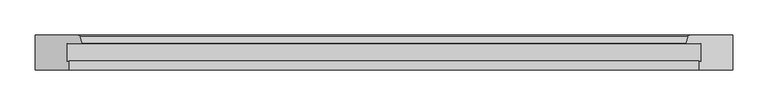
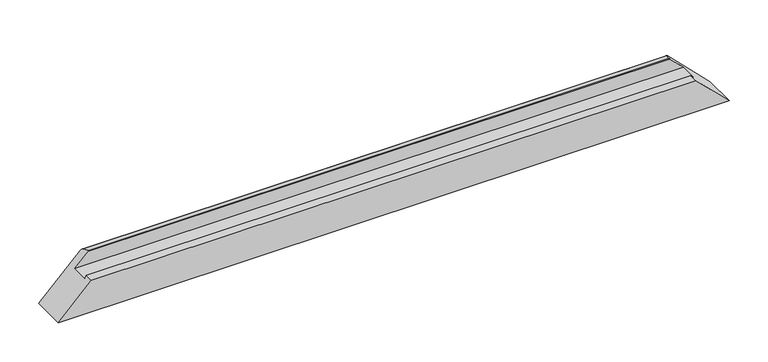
"""IFC4 building model written with IfcOpenShell, lengths in millimetres: proxy geometry, Weiku - Montante - Caixilho 02.2.01.005 : Weiku - Montante - Caixilho 02.2.01.005."""

import ifcopenshell
import ifcopenshell.guid

model = None  # the IFC model being written
_history = None  # IfcOwnerHistory: only IFC2X3 demands one
_inside = {}  # id of a spatial element -> (the spatial element, [elements in it])
_under = {}  # id of a project, library or spatial element -> (it, [spatial elements below it])
_declared = {}  # id of a project -> (the project, [libraries it declares])
_typed = {}  # id of a type object -> (the type object, [elements of that type])
_made_of = {}  # id of a material, layer set ... -> (it, [elements and type objects made of it])


def new_model(schema):
    """Start an empty IFC model of exactly this schema.

    Asked for "IFC4X3", IfcOpenShell would pick the latest addendum, in which some entities
    have other attributes; the version numbers below select the first issue.
    IFC2X3 requires an IfcOwnerHistory on every rooted entity: one is made here for all.
    """
    global model, _history
    if schema == "IFC4X3":
        model = ifcopenshell.file(schema_version=(4, 3, 0, 0))
    else:
        model = ifcopenshell.file(schema=schema)
    _inside.clear()
    _under.clear()
    _declared.clear()
    _typed.clear()
    _made_of.clear()
    _history = None
    if model.schema == "IFC2X3":
        org = make("IfcOrganization", Name="unknown")
        user = make(
            "IfcPersonAndOrganization",
            ThePerson=make("IfcPerson", FamilyName="unknown"),
            TheOrganization=org,
        )
        app = make(
            "IfcApplication",
            ApplicationDeveloper=org,
            Version="unknown",
            ApplicationFullName="unknown",
            ApplicationIdentifier="unknown",
        )
        _history = make(
            "IfcOwnerHistory",
            OwningUser=user,
            OwningApplication=app,
            ChangeAction="ADDED",
            CreationDate=0,
        )
    return model


def make(cls, **values):
    """One entity of the class cls with the attributes given. An attribute that is None is left unset."""
    return model.create_entity(
        cls, **{name: value for name, value in values.items() if value is not None}
    )


def rooted(cls, **values):
    """An entity with a GlobalId (a new one), such as an element, a storey or a relation."""
    return make(cls, GlobalId=ifcopenshell.guid.new(), OwnerHistory=_history, **values)


def si_unit(unit_type, name, prefix=None):
    """IfcSIUnit, for example si_unit("LENGTHUNIT", "METRE", prefix="MILLI")."""
    return make("IfcSIUnit", UnitType=unit_type, Prefix=prefix, Name=name)


def assignment(units):
    """IfcUnitAssignment: the units of a project."""
    return None if units is None else make("IfcUnitAssignment", Units=units)


def point(xyz):
    """IfcCartesianPoint."""
    return None if xyz is None else make("IfcCartesianPoint", Coordinates=xyz)


def direction(xyz):
    """IfcDirection."""
    return None if xyz is None else make("IfcDirection", DirectionRatios=xyz)


def frame(location, z_axis=None, x_axis=None):
    """IfcAxis2Placement3D, a coordinate frame: its origin and axes. An axis left out is left unset."""
    return make(
        "IfcAxis2Placement3D",
        Location=point(location),
        Axis=direction(z_axis),
        RefDirection=direction(x_axis),
    )


def origin():
    """The frame at (0, 0, 0) with its axes left unset."""
    return frame((0.0, 0.0, 0.0))


def place(relative_to, where):
    """IfcLocalPlacement: puts the frame where relative to a parent placement (None: the world)."""
    return make(
        "IfcLocalPlacement", PlacementRelTo=relative_to, RelativePlacement=where
    )


def context(
    kind, dimensions, precision=None, world=None, true_north=None, identifier=None
):
    """IfcGeometricRepresentationContext, for example the 3D "Model" context."""
    return make(
        "IfcGeometricRepresentationContext",
        ContextIdentifier=identifier,
        ContextType=kind,
        CoordinateSpaceDimension=dimensions,
        Precision=precision,
        WorldCoordinateSystem=world,
        TrueNorth=true_north,
    )


def project(units=None, contexts=None):
    """IfcProject with its units and contexts."""
    return rooted(
        "IfcProject",
        Name="project",
        RepresentationContexts=contexts,
        UnitsInContext=assignment(units),
    )


def spatial(cls, under=None, at=None, **own):
    """A site, building, storey or space (cls), placed at a placement, below another one or the project."""
    s = rooted(cls, ObjectPlacement=at, **own)
    if under is not None:
        _under.setdefault(under.id(), (under, []))[1].append(s)
    return s


def ellipse_curve(where, semi_axis1, semi_axis2):
    """IfcEllipse in the frame where."""
    return make(
        "IfcEllipse", Position=where, SemiAxis1=semi_axis1, SemiAxis2=semi_axis2
    )


def shape(context_of_items, identifier, shape_type, items):
    """IfcShapeRepresentation: the items that make up one representation, for example the "Body"."""
    return make(
        "IfcShapeRepresentation",
        ContextOfItems=context_of_items,
        RepresentationIdentifier=identifier,
        RepresentationType=shape_type,
        Items=items,
    )


def source(mapping_origin, context_of_items, identifier, shape_type, items):
    """IfcRepresentationMap: a shape defined once, which mapped items show again and again."""
    return make(
        "IfcRepresentationMap",
        MappingOrigin=mapping_origin,
        MappedRepresentation=shape(context_of_items, identifier, shape_type, items),
    )


def transform(
    local_origin,
    x_axis=None,
    y_axis=None,
    z_axis=None,
    scale=None,
    scale2=None,
    scale3=None,
    uniform=True,
):
    """IfcCartesianTransformationOperator3D, or its non-uniform kind. x_axis, y_axis, z_axis: its Axis1, 2, 3."""
    if uniform:
        return make(
            "IfcCartesianTransformationOperator3D",
            Axis1=direction(x_axis),
            Axis2=direction(y_axis),
            LocalOrigin=point(local_origin),
            Scale=scale,
            Axis3=direction(z_axis),
        )
    return make(
        "IfcCartesianTransformationOperator3DnonUniform",
        Axis1=direction(x_axis),
        Axis2=direction(y_axis),
        LocalOrigin=point(local_origin),
        Scale=scale,
        Axis3=direction(z_axis),
        Scale2=scale2,
        Scale3=scale3,
    )


def mapped(mapping_source, mapping_target):
    """IfcMappedItem: shows the shape of a source again, moved by a transform."""
    return make(
        "IfcMappedItem", MappingSource=mapping_source, MappingTarget=mapping_target
    )


def made_of(thing, what):
    """Note that an element or type object is made of a material, layer set ...; save() writes the relation."""
    if what is not None:
        _made_of.setdefault(what.id(), (what, []))[1].append(thing)
    return thing


def element(
    cls,
    number,
    at=None,
    inside=None,
    cuts=None,
    type_object=None,
    material=None,
    context=None,
    identifier="Body",
    shape_type=None,
    held_by="IfcProductDefinitionShape",
    body=None,
    shapes=None,
    **own,
):
    """One element of the class cls, such as IfcWall. Its Tag is "e" and its number.

    at: its placement. inside: the storey or other place that contains it. cuts: it is an
    opening in that element (IfcRelVoidsElement). A single representation is given by context,
    identifier, shape_type and body (its items); several are given by shapes. held_by: the class
    of the entity that holds the representations. save() writes the other relations.
    """
    e = rooted(cls, Tag="e%d" % number, ObjectPlacement=at, **own)
    if body is not None:
        shapes = [shape(context, identifier, shape_type, body)]
    if shapes is not None:
        e.Representation = make(held_by, Representations=shapes)
    if inside is not None:
        _inside.setdefault(inside.id(), (inside, []))[1].append(e)
    if cuts is not None:
        rooted(
            "IfcRelVoidsElement", RelatingBuildingElement=cuts, RelatedOpeningElement=e
        )
    if type_object is not None:
        _typed.setdefault(type_object.id(), (type_object, []))[1].append(e)
    return made_of(e, material)


def aggregate(whole, parts):
    """IfcRelAggregates: a whole, such as a stair, and the parts it consists of."""
    return rooted("IfcRelAggregates", RelatingObject=whole, RelatedObjects=parts)


def save(model, path):
    """Write the relations noted so far, then the file.

    IfcRelAggregates (storeys below a building ...), IfcRelContainedInSpatialStructure (elements
    in a storey), IfcRelDefinesByType, IfcRelAssociatesMaterial and IfcRelDeclares: one each for
    every whole, place, type object, material and project.
    """
    for whole, parts in _under.values():
        aggregate(whole, parts)
    for where, things in _inside.values():
        rooted(
            "IfcRelContainedInSpatialStructure",
            RelatedElements=things,
            RelatingStructure=where,
        )
    for kind, things in _typed.values():
        rooted("IfcRelDefinesByType", RelatedObjects=things, RelatingType=kind)
    for what, things in _made_of.values():
        rooted("IfcRelAssociatesMaterial", RelatedObjects=things, RelatingMaterial=what)
    for by, libraries in _declared.values():
        rooted("IfcRelDeclares", RelatingContext=by, RelatedDefinitions=libraries)
    model.write(path)


def plane_surface(at):
    """IfcPlane: the flat surface through the origin of the frame at, square to its z axis."""
    return make("IfcPlane", Position=at)


def cylinder_surface(at, radius):
    """IfcCylindricalSurface: all points at the distance radius from the z axis of the frame at."""
    return make("IfcCylindricalSurface", Position=at, Radius=radius)


def advanced_brep(points, edges, surfaces, faces):
    """IfcAdvancedBrep: a solid bounded by faces that lie on surfaces and meet in shared edges.

    An edge is (start, end): straight between two places in points (the first is 0);
    or (start, end, curve); or (start, end, curve, False) where it runs against its curve.
    A face is (place in surfaces, loops), or (place, loops, False) where it looks against
    its surface's normal. A loop lists edges by number (the first is 1), with a minus sign
    where the edge is run from its end to its start. The first loop is the outer one.
    """
    corners = [point(p) for p in points]
    vertices = [make("IfcVertexPoint", VertexGeometry=c) for c in corners]
    made = []
    for start, end, *more in edges:
        made.append(
            make(
                "IfcEdgeCurve",
                EdgeStart=vertices[start],
                EdgeEnd=vertices[end],
                EdgeGeometry=more[0] if more else make("IfcPolyline", Points=[corners[start], corners[end]]),
                SameSense=more[1] if len(more) > 1 else True,
            )
        )
    hull = []
    for where, loops, *sense in faces:
        bounds = []
        for j, loop in enumerate(loops):
            ring = [make("IfcOrientedEdge", EdgeElement=made[abs(k) - 1], Orientation=k > 0) for k in loop]
            bounds.append(
                make(
                    "IfcFaceOuterBound" if j == 0 else "IfcFaceBound",
                    Bound=make("IfcEdgeLoop", EdgeList=ring),
                    Orientation=True,
                )
            )
        hull.append(make("IfcAdvancedFace", Bounds=bounds, FaceSurface=surfaces[where], SameSense=sense[0] if sense else True))
    return make("IfcAdvancedBrep", Outer=make("IfcClosedShell", CfsFaces=hull))


def generic_models_68024df5(model_context):
    return source(origin(), model_context, "Body", "AdvancedBrep", [
        advanced_brep(
        [(-451.0, -12.5, 46.0), (451.0, -12.5, 46.0), (430.8909676, -12.5, 66.1090324), (-430.8909676, -12.5, 66.1090324), (-451.0, -37.8314286, 46.0), (451.0, -37.8314286, 46.0), (-448.0, -37.027581, 49.0), (448.0, -37.027581, 49.0), (-448.0, -50.0, 49.0), (448.0, -50.0, 49.0), (497.0, -50.0, 0.0), (-497.0, -50.0, 0.0), (-497.0, 0.0, 0.0), (497.0, 0.0, 0.0), (-435.4997332, 0.0, 61.5002668), (435.4997332, 0.0, 61.5002668), (-430.118227, -11.4929448, 66.881773), (430.118227, -11.4929448, 66.881773), (432.6019557, -2.2235429, 64.3980443), (-432.6019557, -2.2235429, 64.3980443)],
        [
            (0, 1),
            (1, 2),
            (2, 3),
            (3, 0),
            (4, 5),
            (5, 1),
            (0, 4),
            (6, 7),
            (7, 5),
            (4, 6),
            (8, 9),
            (9, 7),
            (6, 8),
            (10, 9),
            (8, 11),
            (11, 10),
            (11, 12),
            (12, 13),
            (13, 10),
            (12, 14),
            (14, 15),
            (15, 13),
            (16, 17),
            (17, 18),
            (18, 19),
            (19, 16),
            (3, 16, ellipse_curve(frame((-430.8909676, -11.7, 66.1090324), z_axis=(-0.707106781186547, 0.0, 0.707106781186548), x_axis=(-0.7071067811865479, 0.0, -0.707106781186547)), 1.1313708, 0.8)),
            (19, 14, ellipse_curve(frame((-435.4997332, -3.0, 61.5002668), z_axis=(-0.707106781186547, 0.0, 0.707106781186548), x_axis=(-0.7071067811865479, 0.0, -0.707106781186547)), 4.2426407, 3.0)),
            (15, 18, ellipse_curve(frame((435.4997332, -3.0, 61.5002668), z_axis=(0.707106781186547, 0.0, 0.7071067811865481), x_axis=(-0.7071067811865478, 0.0, 0.707106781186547)), 4.2426407, 3.0)),
            (17, 2, ellipse_curve(frame((430.8909676, -11.7, 66.1090324), z_axis=(0.707106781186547, 0.0, 0.7071067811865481), x_axis=(-0.7071067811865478, 0.0, 0.707106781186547)), 1.1313708, 0.8)),
        ],
        [
            plane_surface(frame((-497.0, -12.5, 66.1090324), z_axis=(0.0, -1.0, 0.0), x_axis=(1.0, 0.0, 0.0))),
            plane_surface(frame((-497.0, -12.5, 46.0), z_axis=(0.0, 0.0, 1.0), x_axis=(1.0, 0.0, 0.0))),
            plane_surface(frame((-497.0, -37.8314286, 46.0), z_axis=(0.0, 0.9659258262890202, -0.2588190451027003), x_axis=(1.0, 0.0, 0.0))),
            plane_surface(frame((-497.0, -37.027581, 49.0), z_axis=(0.0, 0.0, 1.0), x_axis=(1.0, 0.0, 0.0))),
            plane_surface(frame((-497.0, -50.0, 49.0), z_axis=(0.0, -1.0, 0.0), x_axis=(1.0, 0.0, 0.0))),
            plane_surface(frame((-497.0, -50.0, 0.0), z_axis=(0.0, 0.0, -1.0), x_axis=(1.0, 0.0, 0.0))),
            plane_surface(frame((-497.0, 0.0, 0.0), z_axis=(0.0, 1.0, 0.0), x_axis=(1.0, 0.0, 0.0))),
            plane_surface(frame((-497.0, -2.2235429, 64.3980443), z_axis=(0.0, 0.2588190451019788, 0.9659258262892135), x_axis=(1.0, 0.0, 0.0))),
            plane_surface(frame((-567.0, 15.0, -70.0), z_axis=(-0.707106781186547, 0.0, 0.707106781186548), x_axis=(0.0, -1.0, 0.0))),
            plane_surface(frame((427.0, 15.0, 70.0), z_axis=(0.707106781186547, 0.0, 0.7071067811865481), x_axis=(0.0, -1.0, 0.0))),
            cylinder_surface(frame((-497.0, -11.7, 66.1090324), z_axis=(-1.0, 0.0, 0.0), x_axis=(0.0, -1.0, 0.0)), 0.8),
            cylinder_surface(frame((-497.0, -3.0, 61.5002668), z_axis=(-1.0, 0.0, 0.0), x_axis=(0.0, -1.0, 0.0)), 3.0),
        ],
        [
            (0, [[1, 2, 3, 4]]),
            (1, [[5, 6, -1, 7]]),
            (2, [[8, 9, -5, 10]]),
            (3, [[11, 12, -8, 13]]),
            (4, [[14, -11, 15, 16]]),
            (5, [[17, 18, 19, -16]]),
            (6, [[20, 21, 22, -18]]),
            (7, [[23, 24, 25, 26]]),
            (8, [[27, -26, 28, -20, -17, -15, -13, -10, -7, -4]]),
            (9, [[-6, -9, -12, -14, -19, -22, 29, -24, 30, -2]]),
            (10, [[-3, -30, -23, -27]]),
            (11, [[-25, -29, -21, -28]]),
        ],
    ),
    ])


if __name__ == "__main__":
    model = new_model("IFC4")
    model_context = context("Model", 3, world=origin())
    ifc_project = project(units=[si_unit("LENGTHUNIT", "METRE", prefix="MILLI")], contexts=[model_context])
    site = spatial("IfcSite", under=ifc_project)
    building = spatial("IfcBuilding", under=site)
    placement = place(None, origin())
    generic_models_shape = generic_models_68024df5(model_context)
    element("IfcBuildingElementProxy", 1, Name="Weiku - Montante - Caixilho 02.2.01.005 : Weiku - Montante - Caixilho 02.2.01.005", ObjectType="Weiku - Montante - Caixilho 02.2.01.005 : Weiku - Montante - Caixilho 02.2.01.005", at=placement, inside=building, context=model_context, shape_type="MappedRepresentation", body=[
        mapped(generic_models_shape, transform((0.0, 0.0, 0.0), x_axis=(1.0, 0.0, 0.0), y_axis=(0.0, 1.0, 0.0), z_axis=(0.0, 0.0, 1.0))),
    ])
    save(model, "model.ifc")
